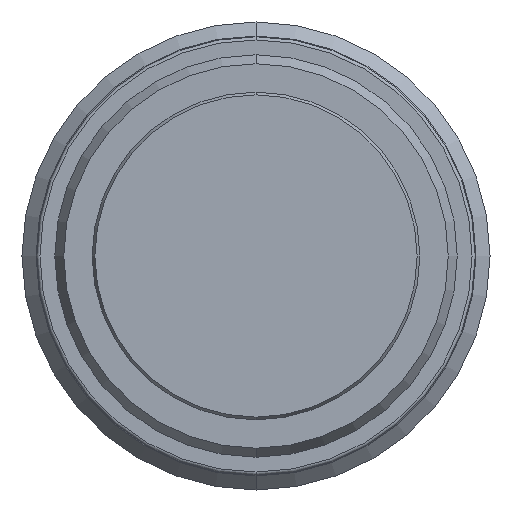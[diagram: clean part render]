
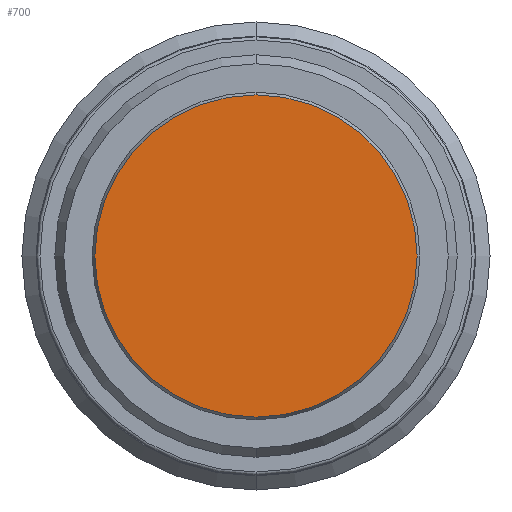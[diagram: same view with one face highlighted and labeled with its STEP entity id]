
A CAD part, front view. The second image highlights one B-rep face of the part: STEP entity #700.
In plain terms, the highlighted planar face has unit normal (0, -1, 0).
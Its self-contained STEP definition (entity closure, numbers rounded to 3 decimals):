
#204=PLANE('',#2846);
#700=ADVANCED_FACE('',(#892),#204,.T.);
#892=FACE_OUTER_BOUND('',#1049,.T.);
#1049=EDGE_LOOP('',(#1401,#1402));
#1401=ORIENTED_EDGE('',*,*,#2174,.F.);
#1402=ORIENTED_EDGE('',*,*,#2281,.F.);
#1943=VERTEX_POINT('',#4005);
#1944=VERTEX_POINT('',#4006);
#2174=EDGE_CURVE('',#1943,#1944,#2552,.T.);
#2281=EDGE_CURVE('',#1944,#1943,#2597,.T.);
#2552=CIRCLE('',#2755,10.327);
#2597=CIRCLE('',#2844,10.327);
#2755=AXIS2_PLACEMENT_3D('',#4004,#3139,#3140);
#2844=AXIS2_PLACEMENT_3D('',#4287,#3359,#3360);
#2846=AXIS2_PLACEMENT_3D('',#4289,#3363,#3364);
#3139=DIRECTION('',(0.,1.,0.));
#3140=DIRECTION('',(0.,0.,1.));
#3359=DIRECTION('',(0.,1.,0.));
#3360=DIRECTION('',(0.,0.,1.));
#3363=DIRECTION('',(0.,-1.,0.));
#3364=DIRECTION('',(0.,0.,-1.));
#4004=CARTESIAN_POINT('',(0.,-2.5,0.));
#4005=CARTESIAN_POINT('',(0.,-2.5,10.327));
#4006=CARTESIAN_POINT('',(0.,-2.5,-10.327));
#4287=CARTESIAN_POINT('',(0.,-2.5,0.));
#4289=CARTESIAN_POINT('',(0.,-2.5,0.));
